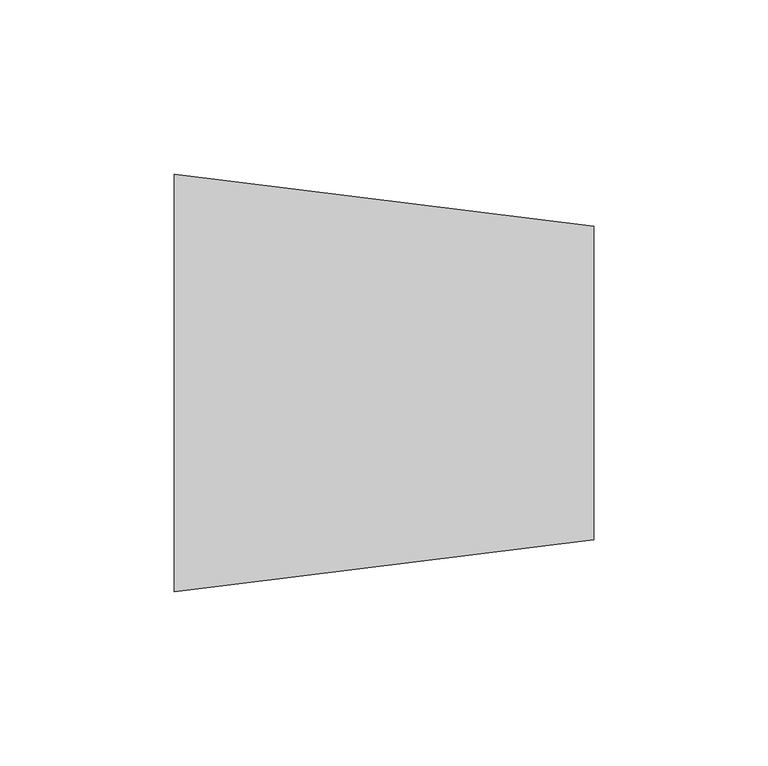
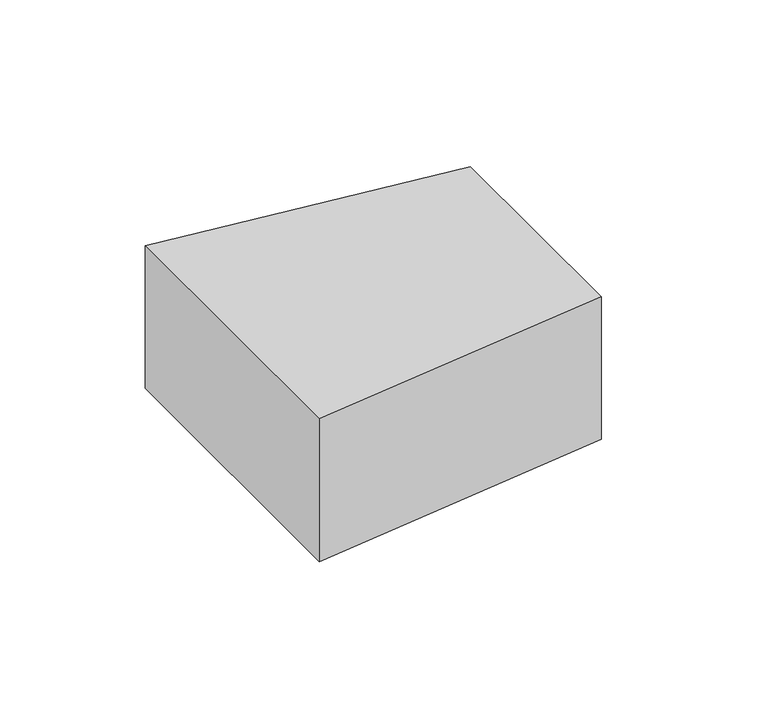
"""IFC4 building model written with IfcOpenShell, lengths in millimetres: duct fitting geometry, КНС_Переходники_DKC : Переходники_DKC."""

from ifc_helpers import new_model, si_unit, frame, origin, place, context, project, spatial, polyline, outline, extrude, source, transform, mapped, element, save


def duct_fitting_1aed79c7(model_context):
    return source(origin(), model_context, "Body", "SweptSolid", [
        extrude(outline(polyline([(0.0, -60.0), (0.0, 60.0), (120.6, 45.0), (120.6, -45.0), (0.0, -60.0)])), frame((0.0, 0.0, -30.0), z_axis=(0.0, 0.0, 1.0), x_axis=(1.0, 0.0, 0.0)), (0.0, 0.0, 1.0), 60.0),
    ])


if __name__ == "__main__":
    model = new_model("IFC4")
    model_context = context("Model", 3, world=origin())
    ifc_project = project(units=[si_unit("LENGTHUNIT", "METRE", prefix="MILLI")], contexts=[model_context])
    site = spatial("IfcSite", under=ifc_project)
    building = spatial("IfcBuilding", under=site)
    placement = place(None, origin())
    duct_fitting_shape = duct_fitting_1aed79c7(model_context)
    element("IfcDuctFitting", 1, ObjectType="КНС_Переходники_DKC : Переходники_DKC", at=placement, inside=building, context=model_context, shape_type="MappedRepresentation", body=[
        mapped(duct_fitting_shape, transform((0.0, 0.0, 0.0), x_axis=(1.0, 0.0, 0.0), y_axis=(0.0, 1.0, 0.0), z_axis=(0.0, 0.0, 1.0))),
    ])
    save(model, "model.ifc")
